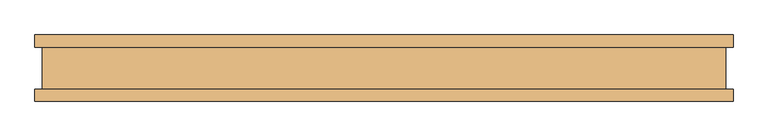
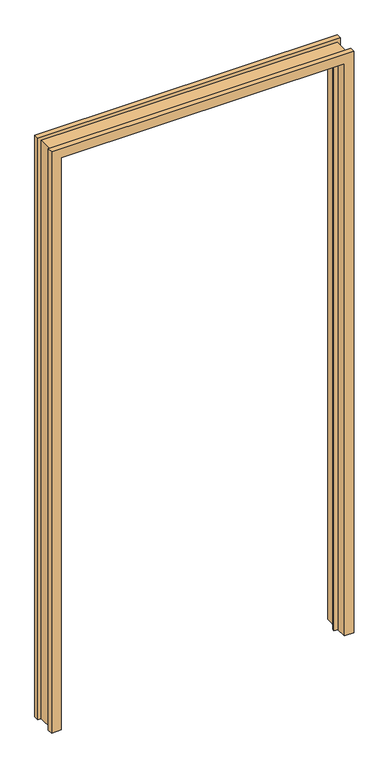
"""IFC4 building model written with IfcOpenShell, lengths in millimetres: door geometry, Frame-Solid_Hinged-AIH-Teknion-FHJA-Jamb_Kit_Single-R2022 : FHJA."""

from ifc_helpers import new_model, si_unit, origin, place, context, project, spatial, faceted_brep, source, transform, mapped, element, save


def door_65cce460(model_context):
    return source(origin(), model_context, "Body", "Brep", [
        faceted_brep([(-525.3482, 31.447233, 0.0), (-525.3482, 49.989233, 0.0), (-492.3282, 49.989233, 0.0), (-492.3282, -2.6789063, 0.0), (-479.3742, -2.6789063, 0.0), (-479.3742, -10.907167, 0.0), (-492.3282, -10.907167, 0.0), (-492.3282, -50.010667, 0.0), (-525.3482, -50.010667, 0.0), (-525.3482, -31.468567, 0.0), (-514.35, -31.468567, 0.0), (-514.35, 31.447233, 0.0), (-525.3482, 31.447233, 2133.5925997), (-525.3482, 49.989233, 2133.5925997), (525.3482, 49.989233, 2133.5925997), (525.3482, 49.989233, 0.0), (492.3282, 49.989233, 0.0), (492.3282, 49.989233, 2100.5725997), (-492.3282, 49.989233, 2100.5725997), (-492.3282, -2.6789063, 2100.5725997), (492.3282, -2.6789063, 2100.5725997), (492.3282, -2.6789063, 0.0), (479.3742, -2.6789063, 0.0), (479.3742, -2.6789063, 2087.6185997), (-479.3742, -2.6789063, 2087.6185997), (-479.3742, -10.907167, 2087.6185997), (479.3742, -10.907167, 2087.6185997), (479.3742, -10.907167, 0.0), (492.3282, -10.907167, 0.0), (492.3282, -10.907167, 2100.5725997), (-492.3282, -10.907167, 2100.5725997), (-492.3282, -50.010667, 2100.5725997), (492.3282, -50.010667, 2100.5725997), (492.3282, -50.010667, 0.0), (525.3482, -50.010667, 0.0), (525.3482, -50.010667, 2133.5925997), (-525.3482, -50.010667, 2133.5925997), (-525.3482, -31.468567, 2133.5925997), (525.3482, -31.468567, 2133.5925997), (525.3482, -31.468567, 0.0), (514.35, -31.468567, 0.0), (514.35, -31.468567, 2122.5943997), (-514.35, -31.468567, 2122.5943997), (-514.35, 31.447233, 2122.5943997), (514.35, 31.447233, 2122.5943997), (514.35, 31.447233, 0.0), (525.3482, 31.447233, 0.0), (525.3482, 31.447233, 2133.5925997)], [[[0, 1, 2, 3, 4, 5, 6, 7, 8, 9, 10, 11]], [[1, 0, 12, 13]], [[2, 1, 13, 14, 15, 16, 17, 18]], [[3, 2, 18, 19]], [[4, 3, 19, 20, 21, 22, 23, 24]], [[5, 4, 24, 25]], [[6, 5, 25, 26, 27, 28, 29, 30]], [[7, 6, 30, 31]], [[8, 7, 31, 32, 33, 34, 35, 36]], [[9, 8, 36, 37]], [[10, 9, 37, 38, 39, 40, 41, 42]], [[11, 10, 42, 43]], [[0, 11, 43, 44, 45, 46, 47, 12]], [[32, 29, 28, 33]], [[46, 45, 40, 39, 34, 33, 28, 27, 22, 21, 16, 15]], [[44, 41, 40, 45]], [[26, 23, 22, 27]], [[20, 17, 16, 21]], [[14, 47, 46, 15]], [[38, 35, 34, 39]], [[31, 30, 29, 32]], [[43, 42, 41, 44]], [[25, 24, 23, 26]], [[19, 18, 17, 20]], [[13, 12, 47, 14]], [[37, 36, 35, 38]]]),
    ])


if __name__ == "__main__":
    model = new_model("IFC4")
    model_context = context("Model", 3, world=origin())
    ifc_project = project(units=[si_unit("LENGTHUNIT", "METRE", prefix="MILLI")], contexts=[model_context])
    site = spatial("IfcSite", under=ifc_project)
    building = spatial("IfcBuilding", under=site)
    placement = place(None, origin())
    door_shape = door_65cce460(model_context)
    element("IfcDoor", 1, ObjectType="Frame-Solid_Hinged-AIH-Teknion-FHJA-Jamb_Kit_Single-R2022 : FHJA", at=placement, inside=building, context=model_context, shape_type="MappedRepresentation", body=[
        mapped(door_shape, transform((0.0, 0.0, 0.0), x_axis=(1.0, 0.0, 0.0), y_axis=(0.0, 1.0, 0.0), z_axis=(0.0, 0.0, 1.0))),
    ])
    save(model, "model.ifc")
